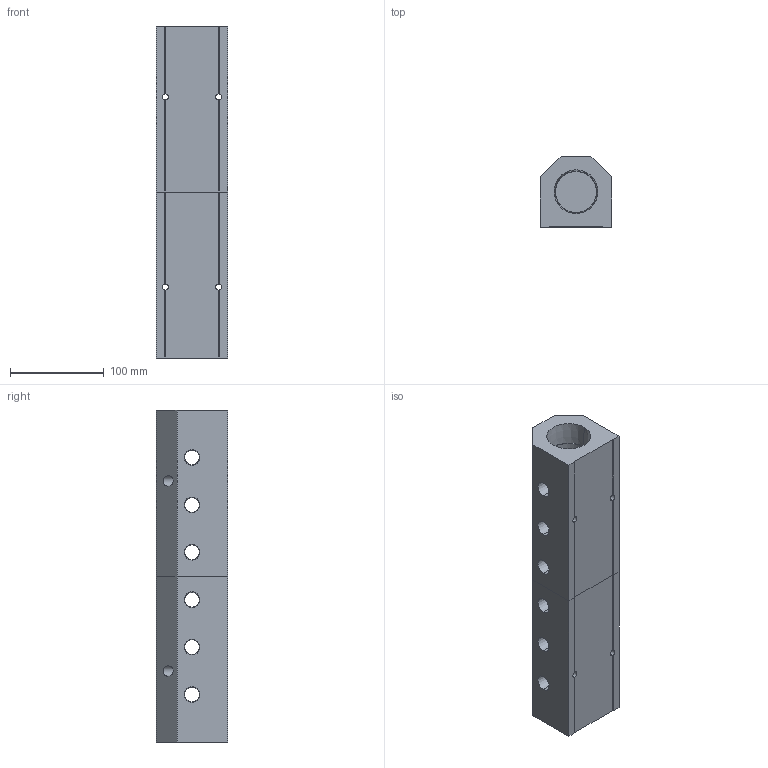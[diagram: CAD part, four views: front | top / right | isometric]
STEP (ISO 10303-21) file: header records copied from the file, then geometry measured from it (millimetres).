
FILE_DESCRIPTION (( 'STEP AP214' ), '1' );
FILE_NAME ('ALM6ACE-N6N24-355RB.step', '2022-02-07T09:16:05', ( '' ), ( '' ), 'SwSTEP 2.0', 'SolidWorks 2020', '' );
FILE_SCHEMA (( 'AUTOMOTIVE_DESIGN' ));
Length unit declared in the file: millimetre
Products named in the file (1): ALM6ACE-N6N24-355RB
Bounding box: 76.2 x 76.2 x 355 mm (x, y, z)
Volume: 1261511 mm3; surface area: 182466.9 mm2
Topology: 2 solids, 2 shells, 381 faces, 1024 edges, 672 vertices
Faces by surface type: plane 242, bspline 79, cone 40, cylinder 20
Entity records: 21924 total; most frequent: CARTESIAN_POINT 9249, ORIENTED_EDGE 2048, DIRECTION 1496, EDGE_CURVE 1024, VECTOR 738, LINE 738, VERTEX_POINT 672, EDGE_LOOP 450
